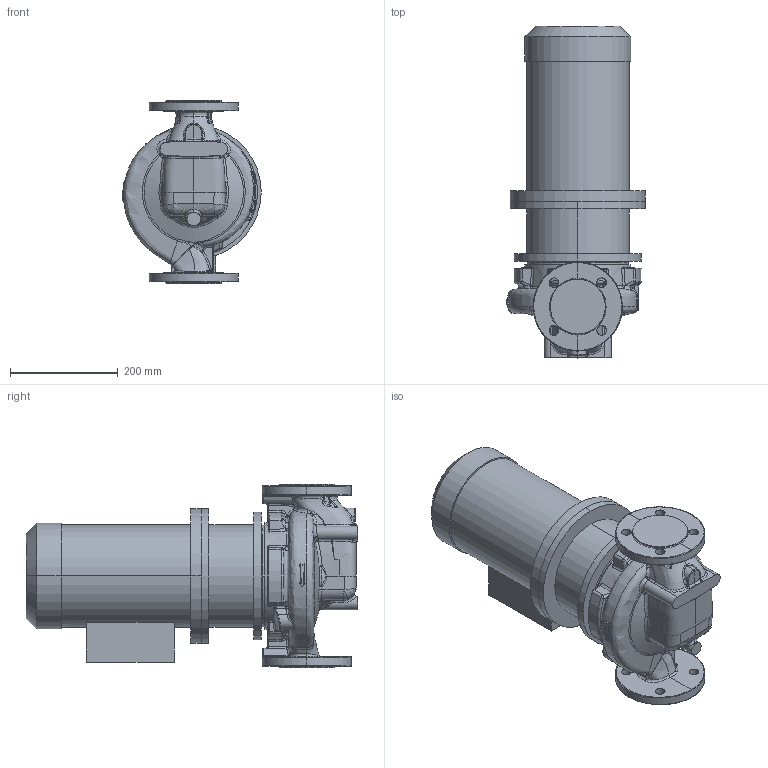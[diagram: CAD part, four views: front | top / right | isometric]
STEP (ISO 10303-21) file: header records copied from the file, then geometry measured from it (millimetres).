
FILE_DESCRIPTION (( 'STEP AP203' ), '1' );
FILE_NAME ('KRL 50-160-2-3.STEP', '2026-04-03T09:33:21', ( '' ), ( '' ), 'SwSTEP 2.0', 'SolidWorks 2016', '' );
FILE_SCHEMA (( 'CONFIG_CONTROL_DESIGN' ));
Length unit declared in the file: millimetre
Products named in the file (1): KRL 50-160-2-3
Bounding box: 256.65 x 615.3 x 340 mm (x, y, z)
Volume: 20838379.3 mm3; surface area: 948882.2 mm2
Topology: 4 solids, 4 shells, 761 faces, 1822 edges, 1057 vertices
Faces by surface type: bspline 413, cylinder 135, plane 96, sphere 57, cone 34, torus 26
Entity records: 79985 total; most frequent: CARTESIAN_POINT 65813, ORIENTED_EDGE 3582, DIRECTION 2100, EDGE_CURVE 1791, VERTEX_POINT 1057, AXIS2_PLACEMENT_3D 933, B_SPLINE_CURVE_WITH_KNOTS 841, EDGE_LOOP 796
